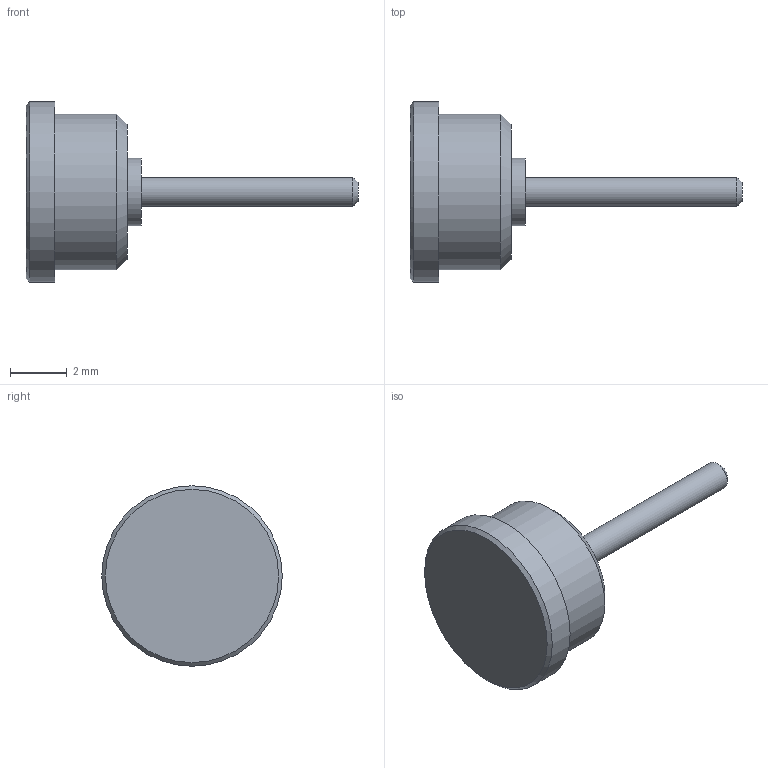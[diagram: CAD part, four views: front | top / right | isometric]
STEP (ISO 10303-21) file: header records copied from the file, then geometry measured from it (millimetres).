
FILE_DESCRIPTION(/* description */ (''),/* implementation_level */ '2;1');
FILE_NAME(/* name */ '\\Snap1\dwgs\Customer 3D Models\571\571-4136-01 Customer model.stp',/* time_stamp */ '2017-01-05T17:16:42+00:00',/* author */ ('paulk'),/* organization */ (''),/* preprocessor_version */ 'ST-DEVELOPER v15.2',/* originating_system */ 'Autodesk Inventor 2014',/* authorisation */ '');
FILE_SCHEMA (('CONFIG_CONTROL_DESIGN'));
Length unit declared in the file: millimetre
Products named in the file (1): 571-4136-01 Customer model
Bounding box: 11.68 x 6.35 x 6.35 mm (x, y, z)
Volume: 99.3 mm3; surface area: 149.6 mm2
Topology: 1 solids, 1 shells, 12 faces, 18 edges, 11 vertices
Faces by surface type: plane 5, cylinder 4, cone 3
Full cylindrical faces by diameter (mm): 1.016 x1, 2.388 x1, 5.486 x1, 6.35 x1
Entity records: 281 total; most frequent: DIRECTION 48, CARTESIAN_POINT 35, AXIS2_PLACEMENT_3D 24, EDGE_LOOP 22, ORIENTED_EDGE 22, FACE_BOUND 13, STYLED_ITEM 13, ADVANCED_FACE 12
